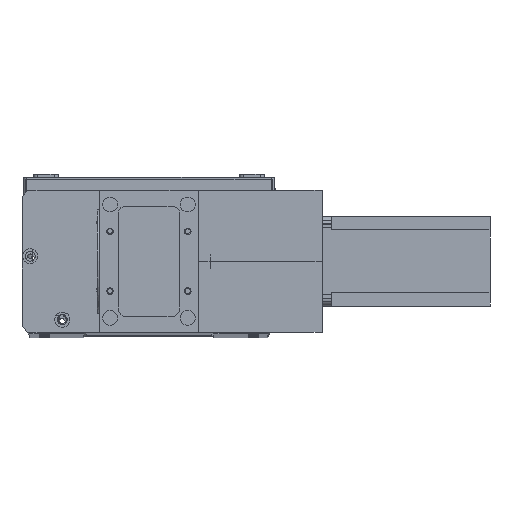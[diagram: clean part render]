
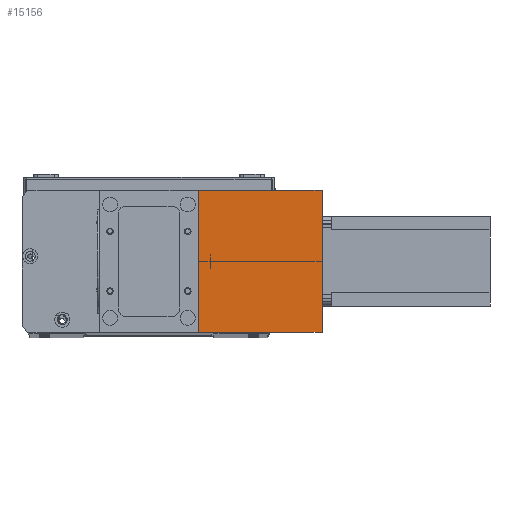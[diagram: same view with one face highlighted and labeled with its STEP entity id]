
A CAD part, top view. The second image highlights one B-rep face of the part: STEP entity #15156.
In plain terms, the highlighted planar face has unit normal (0, 0, 1) as drawn and (1, 0, 0) by its records, which use the part's own axes.
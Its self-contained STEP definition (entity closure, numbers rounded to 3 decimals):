
#408 = DIRECTION ( 'NONE',  ( 0., 0., 1. ) ) ;
#613 = DIRECTION ( 'NONE',  ( -1., 0., 0. ) ) ;
#619 = CARTESIAN_POINT ( 'NONE',  ( 82., 0., 83. ) ) ;
#681 = CARTESIAN_POINT ( 'NONE',  ( 82., 0., 0. ) ) ;
#699 = CARTESIAN_POINT ( 'NONE',  ( 82., 0., 83. ) ) ;
#933 = VECTOR ( 'NONE', #26574, 1000. ) ;
#1424 = PLANE ( 'NONE',  #15328 ) ;
#1649 = LINE ( 'NONE', #26209, #933 ) ;
#3655 = FACE_OUTER_BOUND ( 'NONE', #8157, .T. ) ;
#4528 = LINE ( 'NONE', #10098, #15175 ) ;
#5413 = ORIENTED_EDGE ( 'NONE', *, *, #6522, .F. ) ;
#6365 = EDGE_CURVE ( 'NONE', #14381, #11611, #1649, .T. ) ;
#6522 = EDGE_CURVE ( 'NONE', #11611, #13053, #14855, .T. ) ;
#6669 = EDGE_CURVE ( 'NONE', #29069, #13053, #4528, .T. ) ;
#7373 = EDGE_CURVE ( 'NONE', #14381, #29069, #27930, .T. ) ;
#7888 = ORIENTED_EDGE ( 'NONE', *, *, #7373, .T. ) ;
#8157 = EDGE_LOOP ( 'NONE', ( #16726, #5413, #18495, #7888 ) ) ;
#8826 = VECTOR ( 'NONE', #18048, 1000. ) ;
#10098 = CARTESIAN_POINT ( 'NONE',  ( 82., 0., 0. ) ) ;
#10237 = DIRECTION ( 'NONE',  ( 0., 1., 0. ) ) ;
#11611 = VERTEX_POINT ( 'NONE', #18293 ) ;
#13053 = VERTEX_POINT ( 'NONE', #23941 ) ;
#14381 = VERTEX_POINT ( 'NONE', #619 ) ;
#14855 = LINE ( 'NONE', #18074, #25959 ) ;
#15156 = ADVANCED_FACE ( 'NONE', ( #3655 ), #1424, .F. ) ;
#15175 = VECTOR ( 'NONE', #10237, 1000. ) ;
#15328 = AXIS2_PLACEMENT_3D ( 'NONE', #699, #613, #408 ) ;
#16726 = ORIENTED_EDGE ( 'NONE', *, *, #6669, .T. ) ;
#17752 = DIRECTION ( 'NONE',  ( 0., 0., -1. ) ) ;
#18048 = DIRECTION ( 'NONE',  ( 0., 0., -1. ) ) ;
#18074 = CARTESIAN_POINT ( 'NONE',  ( 82., 95., 83. ) ) ;
#18256 = CARTESIAN_POINT ( 'NONE',  ( 82., 0., 83. ) ) ;
#18293 = CARTESIAN_POINT ( 'NONE',  ( 82., 95., 83. ) ) ;
#18495 = ORIENTED_EDGE ( 'NONE', *, *, #6365, .F. ) ;
#23941 = CARTESIAN_POINT ( 'NONE',  ( 82., 95., 0. ) ) ;
#25959 = VECTOR ( 'NONE', #17752, 1000. ) ;
#26209 = CARTESIAN_POINT ( 'NONE',  ( 82., 0., 83. ) ) ;
#26574 = DIRECTION ( 'NONE',  ( 0., 1., 0. ) ) ;
#27930 = LINE ( 'NONE', #18256, #8826 ) ;
#29069 = VERTEX_POINT ( 'NONE', #681 ) ;
